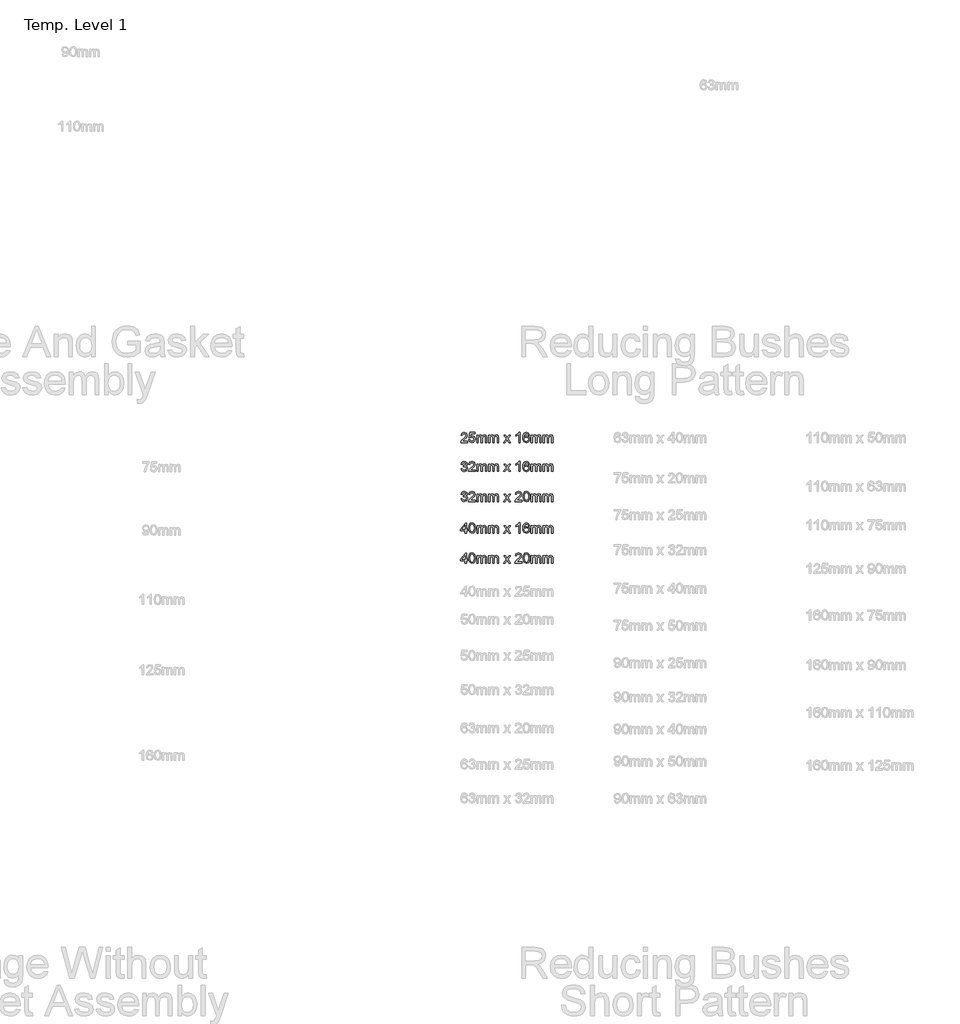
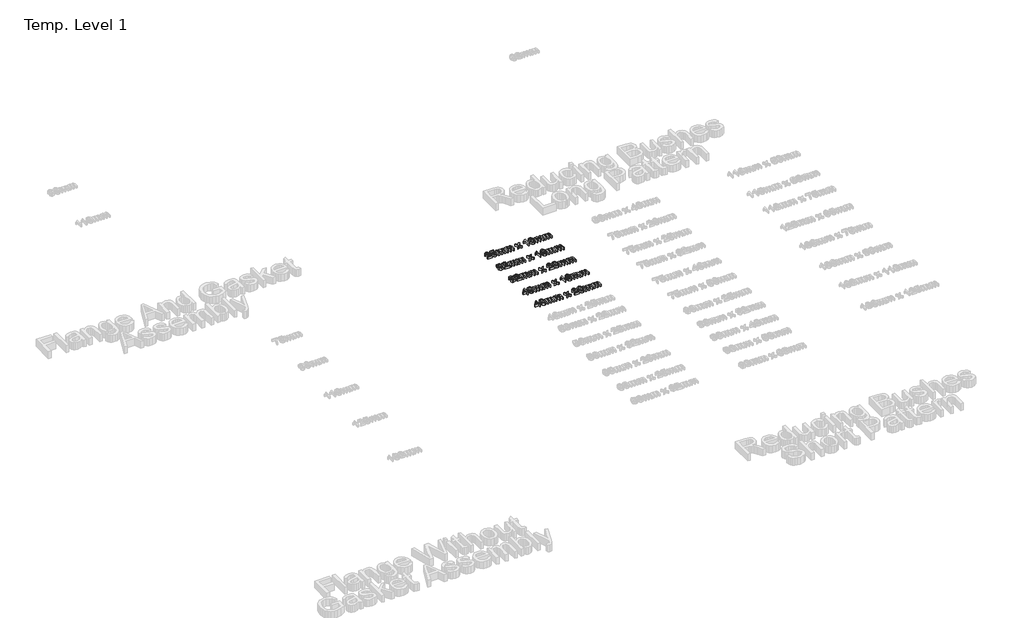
# One storey, part 37 of 62: 5 proxies.
"""IFC4 building model written with IfcOpenShell, lengths in millimetres."""

import ifcopenshell
import ifcopenshell.guid

model = None  # the IFC model being written
_history = None  # IfcOwnerHistory: only IFC2X3 demands one
_inside = {}  # id of a spatial element -> (the spatial element, [elements in it])
_under = {}  # id of a project, library or spatial element -> (it, [spatial elements below it])
_declared = {}  # id of a project -> (the project, [libraries it declares])
_typed = {}  # id of a type object -> (the type object, [elements of that type])
_made_of = {}  # id of a material, layer set ... -> (it, [elements and type objects made of it])


def new_model(schema):
    """Start an empty IFC model of exactly this schema.

    Asked for "IFC4X3", IfcOpenShell would pick the latest addendum, in which some entities
    have other attributes; the version numbers below select the first issue.
    IFC2X3 requires an IfcOwnerHistory on every rooted entity: one is made here for all.
    """
    global model, _history
    if schema == "IFC4X3":
        model = ifcopenshell.file(schema_version=(4, 3, 0, 0))
    else:
        model = ifcopenshell.file(schema=schema)
    _inside.clear()
    _under.clear()
    _declared.clear()
    _typed.clear()
    _made_of.clear()
    _history = None
    if model.schema == "IFC2X3":
        org = make("IfcOrganization", Name="unknown")
        user = make(
            "IfcPersonAndOrganization",
            ThePerson=make("IfcPerson", FamilyName="unknown"),
            TheOrganization=org,
        )
        app = make(
            "IfcApplication",
            ApplicationDeveloper=org,
            Version="unknown",
            ApplicationFullName="unknown",
            ApplicationIdentifier="unknown",
        )
        _history = make(
            "IfcOwnerHistory",
            OwningUser=user,
            OwningApplication=app,
            ChangeAction="ADDED",
            CreationDate=0,
        )
    return model


def make(cls, **values):
    """One entity of the class cls with the attributes given. An attribute that is None is left unset."""
    return model.create_entity(
        cls, **{name: value for name, value in values.items() if value is not None}
    )


def rooted(cls, **values):
    """An entity with a GlobalId (a new one), such as an element, a storey or a relation."""
    return make(cls, GlobalId=ifcopenshell.guid.new(), OwnerHistory=_history, **values)


def si_unit(unit_type, name, prefix=None):
    """IfcSIUnit, for example si_unit("LENGTHUNIT", "METRE", prefix="MILLI")."""
    return make("IfcSIUnit", UnitType=unit_type, Prefix=prefix, Name=name)


def assignment(units):
    """IfcUnitAssignment: the units of a project."""
    return None if units is None else make("IfcUnitAssignment", Units=units)


def point(xyz):
    """IfcCartesianPoint."""
    return None if xyz is None else make("IfcCartesianPoint", Coordinates=xyz)


def direction(xyz):
    """IfcDirection."""
    return None if xyz is None else make("IfcDirection", DirectionRatios=xyz)


def frame(location, z_axis=None, x_axis=None):
    """IfcAxis2Placement3D, a coordinate frame: its origin and axes. An axis left out is left unset."""
    return make(
        "IfcAxis2Placement3D",
        Location=point(location),
        Axis=direction(z_axis),
        RefDirection=direction(x_axis),
    )


def origin():
    """The frame at (0, 0, 0) with its axes left unset."""
    return frame((0.0, 0.0, 0.0))


def origin_with_axes():
    """The frame at (0, 0, 0) with the z axis (0, 0, 1) and the x axis (1, 0, 0) written out."""
    return frame((0.0, 0.0, 0.0), z_axis=(0.0, 0.0, 1.0), x_axis=(1.0, 0.0, 0.0))


def place(relative_to, where):
    """IfcLocalPlacement: puts the frame where relative to a parent placement (None: the world)."""
    return make(
        "IfcLocalPlacement", PlacementRelTo=relative_to, RelativePlacement=where
    )


def context(
    kind, dimensions, precision=None, world=None, true_north=None, identifier=None
):
    """IfcGeometricRepresentationContext, for example the 3D "Model" context."""
    return make(
        "IfcGeometricRepresentationContext",
        ContextIdentifier=identifier,
        ContextType=kind,
        CoordinateSpaceDimension=dimensions,
        Precision=precision,
        WorldCoordinateSystem=world,
        TrueNorth=true_north,
    )


def project(units=None, contexts=None):
    """IfcProject with its units and contexts."""
    return rooted(
        "IfcProject",
        Name="project",
        RepresentationContexts=contexts,
        UnitsInContext=assignment(units),
    )


def spatial(cls, under=None, at=None, **own):
    """A site, building, storey or space (cls), placed at a placement, below another one or the project."""
    s = rooted(cls, ObjectPlacement=at, **own)
    if under is not None:
        _under.setdefault(under.id(), (under, []))[1].append(s)
    return s


def polyline(points):
    """IfcPolyline through the points."""
    return make("IfcPolyline", Points=[point(p) for p in points])


def outline(outer, holes=None, kind="AREA"):
    """IfcArbitraryClosedProfileDef: a profile drawn as a closed curve; with holes, ...WithVoids."""
    if holes is None:
        return make("IfcArbitraryClosedProfileDef", ProfileType=kind, OuterCurve=outer)
    return make(
        "IfcArbitraryProfileDefWithVoids",
        ProfileType=kind,
        OuterCurve=outer,
        InnerCurves=holes,
    )


def extrude(swept, where, along, depth):
    """IfcExtrudedAreaSolid: the profile swept, set in the frame where, extruded along a direction by depth."""
    return make(
        "IfcExtrudedAreaSolid",
        SweptArea=swept,
        Position=where,
        ExtrudedDirection=direction(along),
        Depth=depth,
    )


def shape(context_of_items, identifier, shape_type, items):
    """IfcShapeRepresentation: the items that make up one representation, for example the "Body"."""
    return make(
        "IfcShapeRepresentation",
        ContextOfItems=context_of_items,
        RepresentationIdentifier=identifier,
        RepresentationType=shape_type,
        Items=items,
    )


def made_of(thing, what):
    """Note that an element or type object is made of a material, layer set ...; save() writes the relation."""
    if what is not None:
        _made_of.setdefault(what.id(), (what, []))[1].append(thing)
    return thing


def element(
    cls,
    number,
    at=None,
    inside=None,
    cuts=None,
    type_object=None,
    material=None,
    context=None,
    identifier="Body",
    shape_type=None,
    held_by="IfcProductDefinitionShape",
    body=None,
    shapes=None,
    **own,
):
    """One element of the class cls, such as IfcWall. Its Tag is "e" and its number.

    at: its placement. inside: the storey or other place that contains it. cuts: it is an
    opening in that element (IfcRelVoidsElement). A single representation is given by context,
    identifier, shape_type and body (its items); several are given by shapes. held_by: the class
    of the entity that holds the representations. save() writes the other relations.
    """
    e = rooted(cls, Tag="e%d" % number, ObjectPlacement=at, **own)
    if body is not None:
        shapes = [shape(context, identifier, shape_type, body)]
    if shapes is not None:
        e.Representation = make(held_by, Representations=shapes)
    if inside is not None:
        _inside.setdefault(inside.id(), (inside, []))[1].append(e)
    if cuts is not None:
        rooted(
            "IfcRelVoidsElement", RelatingBuildingElement=cuts, RelatedOpeningElement=e
        )
    if type_object is not None:
        _typed.setdefault(type_object.id(), (type_object, []))[1].append(e)
    return made_of(e, material)


def aggregate(whole, parts):
    """IfcRelAggregates: a whole, such as a stair, and the parts it consists of."""
    return rooted("IfcRelAggregates", RelatingObject=whole, RelatedObjects=parts)


def save(model, path):
    """Write the relations noted so far, then the file.

    IfcRelAggregates (storeys below a building ...), IfcRelContainedInSpatialStructure (elements
    in a storey), IfcRelDefinesByType, IfcRelAssociatesMaterial and IfcRelDeclares: one each for
    every whole, place, type object, material and project.
    """
    for whole, parts in _under.values():
        aggregate(whole, parts)
    for where, things in _inside.values():
        rooted(
            "IfcRelContainedInSpatialStructure",
            RelatedElements=things,
            RelatingStructure=where,
        )
    for kind, things in _typed.values():
        rooted("IfcRelDefinesByType", RelatedObjects=things, RelatingType=kind)
    for what, things in _made_of.values():
        rooted("IfcRelAssociatesMaterial", RelatedObjects=things, RelatingMaterial=what)
    for by, libraries in _declared.values():
        rooted("IfcRelDeclares", RelatingContext=by, RelatedDefinitions=libraries)
    model.write(path)


model = new_model("IFC4")

# Units and contexts
model_context = context("Model", 3, world=origin())
ifc_project = project(units=[si_unit("LENGTHUNIT", "METRE", prefix="MILLI")], contexts=[model_context])

# Site, building, storey
site = spatial("IfcSite", under=ifc_project)
building = spatial("IfcBuilding", under=site)
storey = spatial("IfcBuildingStorey", under=building, Name="Temp. Level 1", Elevation=0.0)

# Proxies
placement = place(None, origin())
element("IfcBuildingElementProxy", 1, Name="50mm Arial", ObjectType="50mm Arial", at=placement, inside=storey, context=model_context, shape_type="SweptSolid", body=[
    extrude(outline(polyline([(23370.9178032, -4386.870358), (23370.9178032, -4393.0242041), (23338.6101109, -4393.0242041), (23339.2711685, -4388.7814157), (23343.0091493, -4382.2489637), (23350.7134762, -4375.1155503), (23361.3384762, -4364.8631464), (23363.9947262, -4357.8919926), (23361.4887166, -4352.2489637), (23354.9442455, -4349.947281), (23348.123332, -4352.1948772), (23345.5331878, -4358.4088195), (23339.3793416, -4357.6395887), (23344.0968897, -4347.339108), (23355.076457, -4343.7934349), (23366.092082, -4347.7357426), (23370.1485724, -4357.5193964), (23369.0548224, -4363.354733), (23365.4190051, -4369.3883868), (23356.6028993, -4377.8198772), (23349.5235724, -4383.7393483), (23346.7471301, -4386.870358), (23370.9178032, -4386.870358)])), origin_with_axes(), (0.0, 0.0, 1.0), 15.0),
    extrude(outline(polyline([(23377.0716493, -4379.947281), (23383.2254955, -4379.1780503), (23386.326457, -4385.5181945), (23392.7567455, -4387.6395887), (23400.4730916, -4384.6888676), (23403.2254955, -4376.8583387), (23400.6473705, -4369.5506464), (23392.8528993, -4366.870358), (23387.4502551, -4367.9400695), (23383.9947262, -4370.7165118), (23377.8408801, -4369.947281), (23383.2254955, -4344.5626657), (23407.0716493, -4344.5626657), (23407.0716493, -4350.7165118), (23388.201457, -4350.7165118), (23385.5692455, -4364.2742041), (23394.5716493, -4360.7165118), (23405.0944859, -4365.1275695), (23409.3793416, -4376.4737233), (23405.5211685, -4387.8919926), (23399.9803032, -4392.3180743), (23392.732707, -4393.7934349), (23381.873332, -4390.0013676), (23377.0716493, -4379.947281)])), origin_with_axes(), (0.0, 0.0, 1.0), 15.0),
    extrude(outline(polyline([(23416.3024185, -4393.0242041), (23416.3024185, -4356.870358), (23422.4562647, -4356.870358), (23422.4562647, -4362.8198772), (23426.6870339, -4357.9460791), (23432.7086685, -4356.1011272), (23438.8745339, -4357.9821368), (23442.263957, -4363.2525695), (23447.0656397, -4357.8889878), (23453.1293416, -4356.1011272), (23461.1762166, -4359.0758868), (23463.9947262, -4368.2405503), (23463.9947262, -4393.0242041), (23457.8408801, -4393.0242041), (23457.8408801, -4370.884781), (23457.2699666, -4365.7465599), (23455.2026589, -4363.2165118), (23451.6870339, -4362.2549733), (23445.6353512, -4364.7189157), (23443.2254955, -4372.6155503), (23443.2254955, -4393.0242041), (23437.0716493, -4393.0242041), (23437.0716493, -4370.1996849), (23435.6473705, -4364.2381464), (23430.9778993, -4362.2549733), (23426.4226109, -4363.5770887), (23423.3937647, -4367.447281), (23422.4562647, -4374.791031), (23422.4562647, -4393.0242041), (23416.3024185, -4393.0242041)])), origin_with_axes(), (0.0, 0.0, 1.0), 15.0),
    extrude(outline(polyline([(23473.2254955, -4393.0242041), (23473.2254955, -4356.870358), (23479.3793416, -4356.870358), (23479.3793416, -4362.8198772), (23483.6101109, -4357.9460791), (23489.6317455, -4356.1011272), (23495.7976109, -4357.9821368), (23499.1870339, -4363.2525695), (23503.9887166, -4357.8889878), (23510.0524185, -4356.1011272), (23518.0992935, -4359.0758868), (23520.9178032, -4368.2405503), (23520.9178032, -4393.0242041), (23514.763957, -4393.0242041), (23514.763957, -4370.884781), (23514.1930435, -4365.7465599), (23512.1257359, -4363.2165118), (23508.6101109, -4362.2549733), (23502.5584282, -4364.7189157), (23500.1485724, -4372.6155503), (23500.1485724, -4393.0242041), (23493.9947262, -4393.0242041), (23493.9947262, -4370.1996849), (23492.5704474, -4364.2381464), (23487.9009762, -4362.2549733), (23483.3456878, -4363.5770887), (23480.3168416, -4367.447281), (23479.3793416, -4374.791031), (23479.3793416, -4393.0242041), (23473.2254955, -4393.0242041)])), origin_with_axes(), (0.0, 0.0, 1.0), 15.0),
    extrude(outline(polyline([(23545.5331878, -4393.0242041), (23558.6822262, -4374.8511272), (23546.3024185, -4356.870358), (23553.7062647, -4356.870358), (23559.6798224, -4365.5242041), (23562.4682839, -4369.6107426), (23564.8841493, -4366.2693964), (23571.6870339, -4356.870358), (23579.0908801, -4356.870358), (23566.0860724, -4374.8511272), (23578.6101109, -4393.0242041), (23571.2062647, -4393.0242041), (23563.670207, -4382.0987233), (23562.2879955, -4380.103531), (23552.9370339, -4393.0242041), (23545.5331878, -4393.0242041)])), origin_with_axes(), (0.0, 0.0, 1.0), 15.0),
    extrude(outline(polyline([(23624.763957, -4393.0242041), (23618.6101109, -4393.0242041), (23618.6101109, -4354.6588195), (23612.7807839, -4358.8114637), (23606.3024185, -4361.9184349), (23606.3024185, -4356.1011272), (23615.3228512, -4350.3439157), (23620.7976109, -4343.7934349), (23624.763957, -4343.7934349), (23624.763957, -4393.0242041)])), origin_with_axes(), (0.0, 0.0, 1.0), 15.0),
    extrude(outline(polyline([(23670.9178032, -4356.870358), (23664.763957, -4357.6395887), (23662.4322262, -4352.5073772), (23656.2663609, -4349.947281), (23650.7134762, -4351.4376657), (23646.5127551, -4357.0326176), (23644.763957, -4368.0001657), (23650.1906397, -4363.0903099), (23656.9153993, -4361.4857426), (23667.3721301, -4365.8727618), (23671.6870339, -4377.2068964), (23669.6557839, -4385.698483), (23664.0668416, -4391.7080983), (23656.0019378, -4393.7934349), (23643.4598705, -4388.2645887), (23639.8225508, -4380.9448772), (23638.6101109, -4370.0434349), (23639.9562647, -4357.7868243), (23643.9947262, -4349.4064157), (23649.5085484, -4345.1966801), (23656.6509762, -4343.7934349), (23666.3745339, -4347.2669926), (23670.9178032, -4356.870358)]), holes=[polyline([(23644.763957, -4377.1107426), (23646.1882359, -4382.4412714), (23649.9742935, -4386.3114637), (23655.5211685, -4387.6395887), (23662.7747743, -4384.8871849), (23665.5331878, -4377.4112233), (23662.810832, -4370.2537714), (23655.2687647, -4367.6395887), (23647.8228512, -4370.2537714), (23644.763957, -4377.1107426)])]), origin_with_axes(), (0.0, 0.0, 1.0), 15.0),
    extrude(outline(polyline([(23678.6101109, -4393.0242041), (23678.6101109, -4356.870358), (23684.763957, -4356.870358), (23684.763957, -4362.8198772), (23688.9947262, -4357.9460791), (23695.0163609, -4356.1011272), (23701.1822262, -4357.9821368), (23704.5716493, -4363.2525695), (23709.373332, -4357.8889878), (23715.4370339, -4356.1011272), (23723.4839089, -4359.0758868), (23726.3024185, -4368.2405503), (23726.3024185, -4393.0242041), (23720.1485724, -4393.0242041), (23720.1485724, -4370.884781), (23719.5776589, -4365.7465599), (23717.5103512, -4363.2165118), (23713.9947262, -4362.2549733), (23707.9430435, -4364.7189157), (23705.5331878, -4372.6155503), (23705.5331878, -4393.0242041), (23699.3793416, -4393.0242041), (23699.3793416, -4370.1996849), (23697.9550628, -4364.2381464), (23693.2855916, -4362.2549733), (23688.7303032, -4363.5770887), (23685.701457, -4367.447281), (23684.763957, -4374.791031), (23684.763957, -4393.0242041), (23678.6101109, -4393.0242041)])), origin_with_axes(), (0.0, 0.0, 1.0), 15.0),
    extrude(outline(polyline([(23735.5331878, -4393.0242041), (23735.5331878, -4356.870358), (23741.6870339, -4356.870358), (23741.6870339, -4362.8198772), (23745.9178032, -4357.9460791), (23751.9394378, -4356.1011272), (23758.1053032, -4357.9821368), (23761.4947262, -4363.2525695), (23766.2964089, -4357.8889878), (23772.3601109, -4356.1011272), (23780.4069859, -4359.0758868), (23783.2254955, -4368.2405503), (23783.2254955, -4393.0242041), (23777.0716493, -4393.0242041), (23777.0716493, -4370.884781), (23776.5007359, -4365.7465599), (23774.4334282, -4363.2165118), (23770.9178032, -4362.2549733), (23764.8661205, -4364.7189157), (23762.4562647, -4372.6155503), (23762.4562647, -4393.0242041), (23756.3024185, -4393.0242041), (23756.3024185, -4370.1996849), (23754.8781397, -4364.2381464), (23750.2086685, -4362.2549733), (23745.6533801, -4363.5770887), (23742.6245339, -4367.447281), (23741.6870339, -4374.791031), (23741.6870339, -4393.0242041), (23735.5331878, -4393.0242041)])), origin_with_axes(), (0.0, 0.0, 1.0), 15.0),
])
element("IfcBuildingElementProxy", 2, Name="50mm Arial", ObjectType="50mm Arial", at=placement, inside=storey, context=model_context, shape_type="SweptSolid", body=[
    extrude(outline(polyline([(23339.3793416, -4519.947281), (23345.5331878, -4519.1780503), (23348.9286205, -4525.6564157), (23355.2807839, -4527.6395887), (23362.7567455, -4524.9112233), (23365.5331878, -4518.1564157), (23362.7807839, -4511.792233), (23355.7855916, -4509.2742041), (23351.4706878, -4509.947281), (23352.1557839, -4503.7934349), (23360.1245339, -4502.0987233), (23363.2254955, -4496.666031), (23360.9778993, -4491.8523291), (23355.1846301, -4489.947281), (23349.3192455, -4491.870358), (23346.3024185, -4497.6395887), (23340.1485724, -4496.870358), (23345.1846301, -4487.2189157), (23354.9682839, -4483.7934349), (23362.3901589, -4485.4821368), (23367.5824666, -4490.0975214), (23369.3793416, -4496.3054541), (23367.6726109, -4501.978531), (23362.6245339, -4506.0530503), (23369.3312647, -4510.259781), (23371.6870339, -4518.2645887), (23366.9754955, -4529.2742041), (23355.0644378, -4533.7934349), (23344.2711685, -4529.9352618), (23339.3793416, -4519.947281)])), origin_with_axes(), (0.0, 0.0, 1.0), 15.0),
    extrude(outline(polyline([(23408.6101109, -4526.870358), (23408.6101109, -4533.0242041), (23376.3024185, -4533.0242041), (23376.9634762, -4528.7814157), (23380.701457, -4522.2489637), (23388.4057839, -4515.1155503), (23399.0307839, -4504.8631464), (23401.6870339, -4497.8919926), (23399.1810243, -4492.2489637), (23392.6365532, -4489.947281), (23385.8156397, -4492.1948772), (23383.2254955, -4498.4088195), (23377.0716493, -4497.6395887), (23381.7891974, -4487.339108), (23392.7687647, -4483.7934349), (23403.7843897, -4487.7357426), (23407.8408801, -4497.5193964), (23406.7471301, -4503.354733), (23403.1113128, -4509.3883868), (23394.295207, -4517.8198772), (23387.2158801, -4523.7393483), (23384.4394378, -4526.870358), (23408.6101109, -4526.870358)])), origin_with_axes(), (0.0, 0.0, 1.0), 15.0),
    extrude(outline(polyline([(23416.3024185, -4533.0242041), (23416.3024185, -4496.870358), (23422.4562647, -4496.870358), (23422.4562647, -4502.8198772), (23426.6870339, -4497.9460791), (23432.7086685, -4496.1011272), (23438.8745339, -4497.9821368), (23442.263957, -4503.2525695), (23447.0656397, -4497.8889878), (23453.1293416, -4496.1011272), (23461.1762166, -4499.0758868), (23463.9947262, -4508.2405503), (23463.9947262, -4533.0242041), (23457.8408801, -4533.0242041), (23457.8408801, -4510.884781), (23457.2699666, -4505.7465599), (23455.2026589, -4503.2165118), (23451.6870339, -4502.2549733), (23445.6353512, -4504.7189157), (23443.2254955, -4512.6155503), (23443.2254955, -4533.0242041), (23437.0716493, -4533.0242041), (23437.0716493, -4510.1996849), (23435.6473705, -4504.2381464), (23430.9778993, -4502.2549733), (23426.4226109, -4503.5770887), (23423.3937647, -4507.447281), (23422.4562647, -4514.791031), (23422.4562647, -4533.0242041), (23416.3024185, -4533.0242041)])), origin_with_axes(), (0.0, 0.0, 1.0), 15.0),
    extrude(outline(polyline([(23473.2254955, -4533.0242041), (23473.2254955, -4496.870358), (23479.3793416, -4496.870358), (23479.3793416, -4502.8198772), (23483.6101109, -4497.9460791), (23489.6317455, -4496.1011272), (23495.7976109, -4497.9821368), (23499.1870339, -4503.2525695), (23503.9887166, -4497.8889878), (23510.0524185, -4496.1011272), (23518.0992935, -4499.0758868), (23520.9178032, -4508.2405503), (23520.9178032, -4533.0242041), (23514.763957, -4533.0242041), (23514.763957, -4510.884781), (23514.1930435, -4505.7465599), (23512.1257359, -4503.2165118), (23508.6101109, -4502.2549733), (23502.5584282, -4504.7189157), (23500.1485724, -4512.6155503), (23500.1485724, -4533.0242041), (23493.9947262, -4533.0242041), (23493.9947262, -4510.1996849), (23492.5704474, -4504.2381464), (23487.9009762, -4502.2549733), (23483.3456878, -4503.5770887), (23480.3168416, -4507.447281), (23479.3793416, -4514.791031), (23479.3793416, -4533.0242041), (23473.2254955, -4533.0242041)])), origin_with_axes(), (0.0, 0.0, 1.0), 15.0),
    extrude(outline(polyline([(23545.5331878, -4533.0242041), (23558.6822262, -4514.8511272), (23546.3024185, -4496.870358), (23553.7062647, -4496.870358), (23559.6798224, -4505.5242041), (23562.4682839, -4509.6107426), (23564.8841493, -4506.2693964), (23571.6870339, -4496.870358), (23579.0908801, -4496.870358), (23566.0860724, -4514.8511272), (23578.6101109, -4533.0242041), (23571.2062647, -4533.0242041), (23563.670207, -4522.0987233), (23562.2879955, -4520.103531), (23552.9370339, -4533.0242041), (23545.5331878, -4533.0242041)])), origin_with_axes(), (0.0, 0.0, 1.0), 15.0),
    extrude(outline(polyline([(23624.763957, -4533.0242041), (23618.6101109, -4533.0242041), (23618.6101109, -4494.6588195), (23612.7807839, -4498.8114637), (23606.3024185, -4501.9184349), (23606.3024185, -4496.1011272), (23615.3228512, -4490.3439157), (23620.7976109, -4483.7934349), (23624.763957, -4483.7934349), (23624.763957, -4533.0242041)])), origin_with_axes(), (0.0, 0.0, 1.0), 15.0),
    extrude(outline(polyline([(23670.9178032, -4496.870358), (23664.763957, -4497.6395887), (23662.4322262, -4492.5073772), (23656.2663609, -4489.947281), (23650.7134762, -4491.4376657), (23646.5127551, -4497.0326176), (23644.763957, -4508.0001657), (23650.1906397, -4503.0903099), (23656.9153993, -4501.4857426), (23667.3721301, -4505.8727618), (23671.6870339, -4517.2068964), (23669.6557839, -4525.698483), (23664.0668416, -4531.7080983), (23656.0019378, -4533.7934349), (23643.4598705, -4528.2645887), (23639.8225508, -4520.9448772), (23638.6101109, -4510.0434349), (23639.9562647, -4497.7868243), (23643.9947262, -4489.4064157), (23649.5085484, -4485.1966801), (23656.6509762, -4483.7934349), (23666.3745339, -4487.2669926), (23670.9178032, -4496.870358)]), holes=[polyline([(23644.763957, -4517.1107426), (23646.1882359, -4522.4412714), (23649.9742935, -4526.3114637), (23655.5211685, -4527.6395887), (23662.7747743, -4524.8871849), (23665.5331878, -4517.4112233), (23662.810832, -4510.2537714), (23655.2687647, -4507.6395887), (23647.8228512, -4510.2537714), (23644.763957, -4517.1107426)])]), origin_with_axes(), (0.0, 0.0, 1.0), 15.0),
    extrude(outline(polyline([(23678.6101109, -4533.0242041), (23678.6101109, -4496.870358), (23684.763957, -4496.870358), (23684.763957, -4502.8198772), (23688.9947262, -4497.9460791), (23695.0163609, -4496.1011272), (23701.1822262, -4497.9821368), (23704.5716493, -4503.2525695), (23709.373332, -4497.8889878), (23715.4370339, -4496.1011272), (23723.4839089, -4499.0758868), (23726.3024185, -4508.2405503), (23726.3024185, -4533.0242041), (23720.1485724, -4533.0242041), (23720.1485724, -4510.884781), (23719.5776589, -4505.7465599), (23717.5103512, -4503.2165118), (23713.9947262, -4502.2549733), (23707.9430435, -4504.7189157), (23705.5331878, -4512.6155503), (23705.5331878, -4533.0242041), (23699.3793416, -4533.0242041), (23699.3793416, -4510.1996849), (23697.9550628, -4504.2381464), (23693.2855916, -4502.2549733), (23688.7303032, -4503.5770887), (23685.701457, -4507.447281), (23684.763957, -4514.791031), (23684.763957, -4533.0242041), (23678.6101109, -4533.0242041)])), origin_with_axes(), (0.0, 0.0, 1.0), 15.0),
    extrude(outline(polyline([(23735.5331878, -4533.0242041), (23735.5331878, -4496.870358), (23741.6870339, -4496.870358), (23741.6870339, -4502.8198772), (23745.9178032, -4497.9460791), (23751.9394378, -4496.1011272), (23758.1053032, -4497.9821368), (23761.4947262, -4503.2525695), (23766.2964089, -4497.8889878), (23772.3601109, -4496.1011272), (23780.4069859, -4499.0758868), (23783.2254955, -4508.2405503), (23783.2254955, -4533.0242041), (23777.0716493, -4533.0242041), (23777.0716493, -4510.884781), (23776.5007359, -4505.7465599), (23774.4334282, -4503.2165118), (23770.9178032, -4502.2549733), (23764.8661205, -4504.7189157), (23762.4562647, -4512.6155503), (23762.4562647, -4533.0242041), (23756.3024185, -4533.0242041), (23756.3024185, -4510.1996849), (23754.8781397, -4504.2381464), (23750.2086685, -4502.2549733), (23745.6533801, -4503.5770887), (23742.6245339, -4507.447281), (23741.6870339, -4514.791031), (23741.6870339, -4533.0242041), (23735.5331878, -4533.0242041)])), origin_with_axes(), (0.0, 0.0, 1.0), 15.0),
])
element("IfcBuildingElementProxy", 3, Name="50mm Arial", ObjectType="50mm Arial", at=placement, inside=storey, context=model_context, shape_type="SweptSolid", body=[
    extrude(outline(polyline([(23339.3793416, -4664.947281), (23345.5331878, -4664.1780503), (23348.9286205, -4670.6564157), (23355.2807839, -4672.6395887), (23362.7567455, -4669.9112233), (23365.5331878, -4663.1564157), (23362.7807839, -4656.792233), (23355.7855916, -4654.2742041), (23351.4706878, -4654.947281), (23352.1557839, -4648.7934349), (23360.1245339, -4647.0987233), (23363.2254955, -4641.666031), (23360.9778993, -4636.8523291), (23355.1846301, -4634.947281), (23349.3192455, -4636.870358), (23346.3024185, -4642.6395887), (23340.1485724, -4641.870358), (23345.1846301, -4632.2189157), (23354.9682839, -4628.7934349), (23362.3901589, -4630.4821368), (23367.5824666, -4635.0975214), (23369.3793416, -4641.3054541), (23367.6726109, -4646.978531), (23362.6245339, -4651.0530503), (23369.3312647, -4655.259781), (23371.6870339, -4663.2645887), (23366.9754955, -4674.2742041), (23355.0644378, -4678.7934349), (23344.2711685, -4674.9352618), (23339.3793416, -4664.947281)])), origin_with_axes(), (0.0, 0.0, 1.0), 15.0),
    extrude(outline(polyline([(23408.6101109, -4671.870358), (23408.6101109, -4678.0242041), (23376.3024185, -4678.0242041), (23376.9634762, -4673.7814157), (23380.701457, -4667.2489637), (23388.4057839, -4660.1155503), (23399.0307839, -4649.8631464), (23401.6870339, -4642.8919926), (23399.1810243, -4637.2489637), (23392.6365532, -4634.947281), (23385.8156397, -4637.1948772), (23383.2254955, -4643.4088195), (23377.0716493, -4642.6395887), (23381.7891974, -4632.339108), (23392.7687647, -4628.7934349), (23403.7843897, -4632.7357426), (23407.8408801, -4642.5193964), (23406.7471301, -4648.354733), (23403.1113128, -4654.3883868), (23394.295207, -4662.8198772), (23387.2158801, -4668.7393483), (23384.4394378, -4671.870358), (23408.6101109, -4671.870358)])), origin_with_axes(), (0.0, 0.0, 1.0), 15.0),
    extrude(outline(polyline([(23416.3024185, -4678.0242041), (23416.3024185, -4641.870358), (23422.4562647, -4641.870358), (23422.4562647, -4647.8198772), (23426.6870339, -4642.9460791), (23432.7086685, -4641.1011272), (23438.8745339, -4642.9821368), (23442.263957, -4648.2525695), (23447.0656397, -4642.8889878), (23453.1293416, -4641.1011272), (23461.1762166, -4644.0758868), (23463.9947262, -4653.2405503), (23463.9947262, -4678.0242041), (23457.8408801, -4678.0242041), (23457.8408801, -4655.884781), (23457.2699666, -4650.7465599), (23455.2026589, -4648.2165118), (23451.6870339, -4647.2549733), (23445.6353512, -4649.7189157), (23443.2254955, -4657.6155503), (23443.2254955, -4678.0242041), (23437.0716493, -4678.0242041), (23437.0716493, -4655.1996849), (23435.6473705, -4649.2381464), (23430.9778993, -4647.2549733), (23426.4226109, -4648.5770887), (23423.3937647, -4652.447281), (23422.4562647, -4659.791031), (23422.4562647, -4678.0242041), (23416.3024185, -4678.0242041)])), origin_with_axes(), (0.0, 0.0, 1.0), 15.0),
    extrude(outline(polyline([(23473.2254955, -4678.0242041), (23473.2254955, -4641.870358), (23479.3793416, -4641.870358), (23479.3793416, -4647.8198772), (23483.6101109, -4642.9460791), (23489.6317455, -4641.1011272), (23495.7976109, -4642.9821368), (23499.1870339, -4648.2525695), (23503.9887166, -4642.8889878), (23510.0524185, -4641.1011272), (23518.0992935, -4644.0758868), (23520.9178032, -4653.2405503), (23520.9178032, -4678.0242041), (23514.763957, -4678.0242041), (23514.763957, -4655.884781), (23514.1930435, -4650.7465599), (23512.1257359, -4648.2165118), (23508.6101109, -4647.2549733), (23502.5584282, -4649.7189157), (23500.1485724, -4657.6155503), (23500.1485724, -4678.0242041), (23493.9947262, -4678.0242041), (23493.9947262, -4655.1996849), (23492.5704474, -4649.2381464), (23487.9009762, -4647.2549733), (23483.3456878, -4648.5770887), (23480.3168416, -4652.447281), (23479.3793416, -4659.791031), (23479.3793416, -4678.0242041), (23473.2254955, -4678.0242041)])), origin_with_axes(), (0.0, 0.0, 1.0), 15.0),
    extrude(outline(polyline([(23545.5331878, -4678.0242041), (23558.6822262, -4659.8511272), (23546.3024185, -4641.870358), (23553.7062647, -4641.870358), (23559.6798224, -4650.5242041), (23562.4682839, -4654.6107426), (23564.8841493, -4651.2693964), (23571.6870339, -4641.870358), (23579.0908801, -4641.870358), (23566.0860724, -4659.8511272), (23578.6101109, -4678.0242041), (23571.2062647, -4678.0242041), (23563.670207, -4667.0987233), (23562.2879955, -4665.103531), (23552.9370339, -4678.0242041), (23545.5331878, -4678.0242041)])), origin_with_axes(), (0.0, 0.0, 1.0), 15.0),
    extrude(outline(polyline([(23633.2254955, -4671.870358), (23633.2254955, -4678.0242041), (23600.9178032, -4678.0242041), (23601.5788609, -4673.7814157), (23605.3168416, -4667.2489637), (23613.0211685, -4660.1155503), (23623.6461685, -4649.8631464), (23626.3024185, -4642.8919926), (23623.7964089, -4637.2489637), (23617.2519378, -4634.947281), (23610.4310243, -4637.1948772), (23607.8408801, -4643.4088195), (23601.6870339, -4642.6395887), (23606.404582, -4632.339108), (23617.3841493, -4628.7934349), (23628.3997743, -4632.7357426), (23632.4562647, -4642.5193964), (23631.3625147, -4648.354733), (23627.7266974, -4654.3883868), (23618.9105916, -4662.8198772), (23611.8312647, -4668.7393483), (23609.0548224, -4671.870358), (23633.2254955, -4671.870358)])), origin_with_axes(), (0.0, 0.0, 1.0), 15.0),
    extrude(outline(polyline([(23639.3793416, -4653.8054541), (23641.1882359, -4639.6407907), (23646.560832, -4631.4737233), (23655.5331878, -4628.7934349), (23662.7206878, -4630.3799733), (23667.6846301, -4634.9532907), (23670.5692455, -4642.2369445), (23671.6870339, -4653.8054541), (23669.8961685, -4667.9100214), (23664.5416012, -4676.0951176), (23655.5331878, -4678.7934349), (23644.2831878, -4674.1059349), (23640.6053032, -4665.7796128), (23639.3793416, -4653.8054541)]), holes=[polyline([(23645.5331878, -4653.7934349), (23648.4178032, -4669.0758868), (23655.5331878, -4672.6395887), (23662.6485724, -4669.0638676), (23665.5331878, -4653.7934349), (23662.7447262, -4638.6852618), (23655.4610724, -4634.947281), (23648.513957, -4638.2405503), (23645.5331878, -4653.7934349)])]), origin_with_axes(), (0.0, 0.0, 1.0), 15.0),
    extrude(outline(polyline([(23678.6101109, -4678.0242041), (23678.6101109, -4641.870358), (23684.763957, -4641.870358), (23684.763957, -4647.8198772), (23688.9947262, -4642.9460791), (23695.0163609, -4641.1011272), (23701.1822262, -4642.9821368), (23704.5716493, -4648.2525695), (23709.373332, -4642.8889878), (23715.4370339, -4641.1011272), (23723.4839089, -4644.0758868), (23726.3024185, -4653.2405503), (23726.3024185, -4678.0242041), (23720.1485724, -4678.0242041), (23720.1485724, -4655.884781), (23719.5776589, -4650.7465599), (23717.5103512, -4648.2165118), (23713.9947262, -4647.2549733), (23707.9430435, -4649.7189157), (23705.5331878, -4657.6155503), (23705.5331878, -4678.0242041), (23699.3793416, -4678.0242041), (23699.3793416, -4655.1996849), (23697.9550628, -4649.2381464), (23693.2855916, -4647.2549733), (23688.7303032, -4648.5770887), (23685.701457, -4652.447281), (23684.763957, -4659.791031), (23684.763957, -4678.0242041), (23678.6101109, -4678.0242041)])), origin_with_axes(), (0.0, 0.0, 1.0), 15.0),
    extrude(outline(polyline([(23735.5331878, -4678.0242041), (23735.5331878, -4641.870358), (23741.6870339, -4641.870358), (23741.6870339, -4647.8198772), (23745.9178032, -4642.9460791), (23751.9394378, -4641.1011272), (23758.1053032, -4642.9821368), (23761.4947262, -4648.2525695), (23766.2964089, -4642.8889878), (23772.3601109, -4641.1011272), (23780.4069859, -4644.0758868), (23783.2254955, -4653.2405503), (23783.2254955, -4678.0242041), (23777.0716493, -4678.0242041), (23777.0716493, -4655.884781), (23776.5007359, -4650.7465599), (23774.4334282, -4648.2165118), (23770.9178032, -4647.2549733), (23764.8661205, -4649.7189157), (23762.4562647, -4657.6155503), (23762.4562647, -4678.0242041), (23756.3024185, -4678.0242041), (23756.3024185, -4655.1996849), (23754.8781397, -4649.2381464), (23750.2086685, -4647.2549733), (23745.6533801, -4648.5770887), (23742.6245339, -4652.447281), (23741.6870339, -4659.791031), (23741.6870339, -4678.0242041), (23735.5331878, -4678.0242041)])), origin_with_axes(), (0.0, 0.0, 1.0), 15.0),
])
element("IfcBuildingElementProxy", 4, Name="50mm Arial", ObjectType="50mm Arial", at=placement, inside=storey, context=model_context, shape_type="SweptSolid", body=[
    extrude(outline(polyline([(23359.3793416, -4830.5242041), (23359.3793416, -4818.9857426), (23337.0716493, -4818.9857426), (23337.0716493, -4812.8318964), (23360.9178032, -4782.0626657), (23365.5331878, -4782.0626657), (23365.5331878, -4812.8318964), (23371.6870339, -4812.8318964), (23371.6870339, -4818.9857426), (23365.5331878, -4818.9857426), (23365.5331878, -4830.5242041), (23359.3793416, -4830.5242041)]), holes=[polyline([(23359.3793416, -4812.8318964), (23359.3793416, -4793.8174733), (23344.6437647, -4812.8318964), (23359.3793416, -4812.8318964)])]), origin_with_axes(), (0.0, 0.0, 1.0), 15.0),
    extrude(outline(polyline([(23377.0716493, -4806.3054541), (23378.8805435, -4792.1407907), (23384.2531397, -4783.9737233), (23393.2254955, -4781.2934349), (23400.4129955, -4782.8799733), (23405.3769378, -4787.4532907), (23408.2615532, -4794.7369445), (23409.3793416, -4806.3054541), (23407.5884762, -4820.4100214), (23402.2339089, -4828.5951176), (23393.2254955, -4831.2934349), (23381.9754955, -4826.6059349), (23378.2976109, -4818.2796128), (23377.0716493, -4806.3054541)]), holes=[polyline([(23383.2254955, -4806.2934349), (23386.1101109, -4821.5758868), (23393.2254955, -4825.1395887), (23400.3408801, -4821.5638676), (23403.2254955, -4806.2934349), (23400.4370339, -4791.1852618), (23393.1533801, -4787.447281), (23386.2062647, -4790.7405503), (23383.2254955, -4806.2934349)])]), origin_with_axes(), (0.0, 0.0, 1.0), 15.0),
    extrude(outline(polyline([(23416.3024185, -4830.5242041), (23416.3024185, -4794.370358), (23422.4562647, -4794.370358), (23422.4562647, -4800.3198772), (23426.6870339, -4795.4460791), (23432.7086685, -4793.6011272), (23438.8745339, -4795.4821368), (23442.263957, -4800.7525695), (23447.0656397, -4795.3889878), (23453.1293416, -4793.6011272), (23461.1762166, -4796.5758868), (23463.9947262, -4805.7405503), (23463.9947262, -4830.5242041), (23457.8408801, -4830.5242041), (23457.8408801, -4808.384781), (23457.2699666, -4803.2465599), (23455.2026589, -4800.7165118), (23451.6870339, -4799.7549733), (23445.6353512, -4802.2189157), (23443.2254955, -4810.1155503), (23443.2254955, -4830.5242041), (23437.0716493, -4830.5242041), (23437.0716493, -4807.6996849), (23435.6473705, -4801.7381464), (23430.9778993, -4799.7549733), (23426.4226109, -4801.0770887), (23423.3937647, -4804.947281), (23422.4562647, -4812.291031), (23422.4562647, -4830.5242041), (23416.3024185, -4830.5242041)])), origin_with_axes(), (0.0, 0.0, 1.0), 15.0),
    extrude(outline(polyline([(23473.2254955, -4830.5242041), (23473.2254955, -4794.370358), (23479.3793416, -4794.370358), (23479.3793416, -4800.3198772), (23483.6101109, -4795.4460791), (23489.6317455, -4793.6011272), (23495.7976109, -4795.4821368), (23499.1870339, -4800.7525695), (23503.9887166, -4795.3889878), (23510.0524185, -4793.6011272), (23518.0992935, -4796.5758868), (23520.9178032, -4805.7405503), (23520.9178032, -4830.5242041), (23514.763957, -4830.5242041), (23514.763957, -4808.384781), (23514.1930435, -4803.2465599), (23512.1257359, -4800.7165118), (23508.6101109, -4799.7549733), (23502.5584282, -4802.2189157), (23500.1485724, -4810.1155503), (23500.1485724, -4830.5242041), (23493.9947262, -4830.5242041), (23493.9947262, -4807.6996849), (23492.5704474, -4801.7381464), (23487.9009762, -4799.7549733), (23483.3456878, -4801.0770887), (23480.3168416, -4804.947281), (23479.3793416, -4812.291031), (23479.3793416, -4830.5242041), (23473.2254955, -4830.5242041)])), origin_with_axes(), (0.0, 0.0, 1.0), 15.0),
    extrude(outline(polyline([(23545.5331878, -4830.5242041), (23558.6822262, -4812.3511272), (23546.3024185, -4794.370358), (23553.7062647, -4794.370358), (23559.6798224, -4803.0242041), (23562.4682839, -4807.1107426), (23564.8841493, -4803.7693964), (23571.6870339, -4794.370358), (23579.0908801, -4794.370358), (23566.0860724, -4812.3511272), (23578.6101109, -4830.5242041), (23571.2062647, -4830.5242041), (23563.670207, -4819.5987233), (23562.2879955, -4817.603531), (23552.9370339, -4830.5242041), (23545.5331878, -4830.5242041)])), origin_with_axes(), (0.0, 0.0, 1.0), 15.0),
    extrude(outline(polyline([(23624.763957, -4830.5242041), (23618.6101109, -4830.5242041), (23618.6101109, -4792.1588195), (23612.7807839, -4796.3114637), (23606.3024185, -4799.4184349), (23606.3024185, -4793.6011272), (23615.3228512, -4787.8439157), (23620.7976109, -4781.2934349), (23624.763957, -4781.2934349), (23624.763957, -4830.5242041)])), origin_with_axes(), (0.0, 0.0, 1.0), 15.0),
    extrude(outline(polyline([(23670.9178032, -4794.370358), (23664.763957, -4795.1395887), (23662.4322262, -4790.0073772), (23656.2663609, -4787.447281), (23650.7134762, -4788.9376657), (23646.5127551, -4794.5326176), (23644.763957, -4805.5001657), (23650.1906397, -4800.5903099), (23656.9153993, -4798.9857426), (23667.3721301, -4803.3727618), (23671.6870339, -4814.7068964), (23669.6557839, -4823.198483), (23664.0668416, -4829.2080983), (23656.0019378, -4831.2934349), (23643.4598705, -4825.7645887), (23639.8225508, -4818.4448772), (23638.6101109, -4807.5434349), (23639.9562647, -4795.2868243), (23643.9947262, -4786.9064157), (23649.5085484, -4782.6966801), (23656.6509762, -4781.2934349), (23666.3745339, -4784.7669926), (23670.9178032, -4794.370358)]), holes=[polyline([(23644.763957, -4814.6107426), (23646.1882359, -4819.9412714), (23649.9742935, -4823.8114637), (23655.5211685, -4825.1395887), (23662.7747743, -4822.3871849), (23665.5331878, -4814.9112233), (23662.810832, -4807.7537714), (23655.2687647, -4805.1395887), (23647.8228512, -4807.7537714), (23644.763957, -4814.6107426)])]), origin_with_axes(), (0.0, 0.0, 1.0), 15.0),
    extrude(outline(polyline([(23678.6101109, -4830.5242041), (23678.6101109, -4794.370358), (23684.763957, -4794.370358), (23684.763957, -4800.3198772), (23688.9947262, -4795.4460791), (23695.0163609, -4793.6011272), (23701.1822262, -4795.4821368), (23704.5716493, -4800.7525695), (23709.373332, -4795.3889878), (23715.4370339, -4793.6011272), (23723.4839089, -4796.5758868), (23726.3024185, -4805.7405503), (23726.3024185, -4830.5242041), (23720.1485724, -4830.5242041), (23720.1485724, -4808.384781), (23719.5776589, -4803.2465599), (23717.5103512, -4800.7165118), (23713.9947262, -4799.7549733), (23707.9430435, -4802.2189157), (23705.5331878, -4810.1155503), (23705.5331878, -4830.5242041), (23699.3793416, -4830.5242041), (23699.3793416, -4807.6996849), (23697.9550628, -4801.7381464), (23693.2855916, -4799.7549733), (23688.7303032, -4801.0770887), (23685.701457, -4804.947281), (23684.763957, -4812.291031), (23684.763957, -4830.5242041), (23678.6101109, -4830.5242041)])), origin_with_axes(), (0.0, 0.0, 1.0), 15.0),
    extrude(outline(polyline([(23735.5331878, -4830.5242041), (23735.5331878, -4794.370358), (23741.6870339, -4794.370358), (23741.6870339, -4800.3198772), (23745.9178032, -4795.4460791), (23751.9394378, -4793.6011272), (23758.1053032, -4795.4821368), (23761.4947262, -4800.7525695), (23766.2964089, -4795.3889878), (23772.3601109, -4793.6011272), (23780.4069859, -4796.5758868), (23783.2254955, -4805.7405503), (23783.2254955, -4830.5242041), (23777.0716493, -4830.5242041), (23777.0716493, -4808.384781), (23776.5007359, -4803.2465599), (23774.4334282, -4800.7165118), (23770.9178032, -4799.7549733), (23764.8661205, -4802.2189157), (23762.4562647, -4810.1155503), (23762.4562647, -4830.5242041), (23756.3024185, -4830.5242041), (23756.3024185, -4807.6996849), (23754.8781397, -4801.7381464), (23750.2086685, -4799.7549733), (23745.6533801, -4801.0770887), (23742.6245339, -4804.947281), (23741.6870339, -4812.291031), (23741.6870339, -4830.5242041), (23735.5331878, -4830.5242041)])), origin_with_axes(), (0.0, 0.0, 1.0), 15.0),
])
element("IfcBuildingElementProxy", 5, Name="50mm Arial", ObjectType="50mm Arial", at=placement, inside=storey, context=model_context, shape_type="SweptSolid", body=[
    extrude(outline(polyline([(23359.3793416, -4975.5242041), (23359.3793416, -4963.9857426), (23337.0716493, -4963.9857426), (23337.0716493, -4957.8318964), (23360.9178032, -4927.0626657), (23365.5331878, -4927.0626657), (23365.5331878, -4957.8318964), (23371.6870339, -4957.8318964), (23371.6870339, -4963.9857426), (23365.5331878, -4963.9857426), (23365.5331878, -4975.5242041), (23359.3793416, -4975.5242041)]), holes=[polyline([(23359.3793416, -4957.8318964), (23359.3793416, -4938.8174733), (23344.6437647, -4957.8318964), (23359.3793416, -4957.8318964)])]), origin_with_axes(), (0.0, 0.0, 1.0), 15.0),
    extrude(outline(polyline([(23377.0716493, -4951.3054541), (23378.8805435, -4937.1407907), (23384.2531397, -4928.9737233), (23393.2254955, -4926.2934349), (23400.4129955, -4927.8799733), (23405.3769378, -4932.4532907), (23408.2615532, -4939.7369445), (23409.3793416, -4951.3054541), (23407.5884762, -4965.4100214), (23402.2339089, -4973.5951176), (23393.2254955, -4976.2934349), (23381.9754955, -4971.6059349), (23378.2976109, -4963.2796128), (23377.0716493, -4951.3054541)]), holes=[polyline([(23383.2254955, -4951.2934349), (23386.1101109, -4966.5758868), (23393.2254955, -4970.1395887), (23400.3408801, -4966.5638676), (23403.2254955, -4951.2934349), (23400.4370339, -4936.1852618), (23393.1533801, -4932.447281), (23386.2062647, -4935.7405503), (23383.2254955, -4951.2934349)])]), origin_with_axes(), (0.0, 0.0, 1.0), 15.0),
    extrude(outline(polyline([(23416.3024185, -4975.5242041), (23416.3024185, -4939.370358), (23422.4562647, -4939.370358), (23422.4562647, -4945.3198772), (23426.6870339, -4940.4460791), (23432.7086685, -4938.6011272), (23438.8745339, -4940.4821368), (23442.263957, -4945.7525695), (23447.0656397, -4940.3889878), (23453.1293416, -4938.6011272), (23461.1762166, -4941.5758868), (23463.9947262, -4950.7405503), (23463.9947262, -4975.5242041), (23457.8408801, -4975.5242041), (23457.8408801, -4953.384781), (23457.2699666, -4948.2465599), (23455.2026589, -4945.7165118), (23451.6870339, -4944.7549733), (23445.6353512, -4947.2189157), (23443.2254955, -4955.1155503), (23443.2254955, -4975.5242041), (23437.0716493, -4975.5242041), (23437.0716493, -4952.6996849), (23435.6473705, -4946.7381464), (23430.9778993, -4944.7549733), (23426.4226109, -4946.0770887), (23423.3937647, -4949.947281), (23422.4562647, -4957.291031), (23422.4562647, -4975.5242041), (23416.3024185, -4975.5242041)])), origin_with_axes(), (0.0, 0.0, 1.0), 15.0),
    extrude(outline(polyline([(23473.2254955, -4975.5242041), (23473.2254955, -4939.370358), (23479.3793416, -4939.370358), (23479.3793416, -4945.3198772), (23483.6101109, -4940.4460791), (23489.6317455, -4938.6011272), (23495.7976109, -4940.4821368), (23499.1870339, -4945.7525695), (23503.9887166, -4940.3889878), (23510.0524185, -4938.6011272), (23518.0992935, -4941.5758868), (23520.9178032, -4950.7405503), (23520.9178032, -4975.5242041), (23514.763957, -4975.5242041), (23514.763957, -4953.384781), (23514.1930435, -4948.2465599), (23512.1257359, -4945.7165118), (23508.6101109, -4944.7549733), (23502.5584282, -4947.2189157), (23500.1485724, -4955.1155503), (23500.1485724, -4975.5242041), (23493.9947262, -4975.5242041), (23493.9947262, -4952.6996849), (23492.5704474, -4946.7381464), (23487.9009762, -4944.7549733), (23483.3456878, -4946.0770887), (23480.3168416, -4949.947281), (23479.3793416, -4957.291031), (23479.3793416, -4975.5242041), (23473.2254955, -4975.5242041)])), origin_with_axes(), (0.0, 0.0, 1.0), 15.0),
    extrude(outline(polyline([(23545.5331878, -4975.5242041), (23558.6822262, -4957.3511272), (23546.3024185, -4939.370358), (23553.7062647, -4939.370358), (23559.6798224, -4948.0242041), (23562.4682839, -4952.1107426), (23564.8841493, -4948.7693964), (23571.6870339, -4939.370358), (23579.0908801, -4939.370358), (23566.0860724, -4957.3511272), (23578.6101109, -4975.5242041), (23571.2062647, -4975.5242041), (23563.670207, -4964.5987233), (23562.2879955, -4962.603531), (23552.9370339, -4975.5242041), (23545.5331878, -4975.5242041)])), origin_with_axes(), (0.0, 0.0, 1.0), 15.0),
    extrude(outline(polyline([(23633.2254955, -4969.370358), (23633.2254955, -4975.5242041), (23600.9178032, -4975.5242041), (23601.5788609, -4971.2814157), (23605.3168416, -4964.7489637), (23613.0211685, -4957.6155503), (23623.6461685, -4947.3631464), (23626.3024185, -4940.3919926), (23623.7964089, -4934.7489637), (23617.2519378, -4932.447281), (23610.4310243, -4934.6948772), (23607.8408801, -4940.9088195), (23601.6870339, -4940.1395887), (23606.404582, -4929.839108), (23617.3841493, -4926.2934349), (23628.3997743, -4930.2357426), (23632.4562647, -4940.0193964), (23631.3625147, -4945.854733), (23627.7266974, -4951.8883868), (23618.9105916, -4960.3198772), (23611.8312647, -4966.2393483), (23609.0548224, -4969.370358), (23633.2254955, -4969.370358)])), origin_with_axes(), (0.0, 0.0, 1.0), 15.0),
    extrude(outline(polyline([(23639.3793416, -4951.3054541), (23641.1882359, -4937.1407907), (23646.560832, -4928.9737233), (23655.5331878, -4926.2934349), (23662.7206878, -4927.8799733), (23667.6846301, -4932.4532907), (23670.5692455, -4939.7369445), (23671.6870339, -4951.3054541), (23669.8961685, -4965.4100214), (23664.5416012, -4973.5951176), (23655.5331878, -4976.2934349), (23644.2831878, -4971.6059349), (23640.6053032, -4963.2796128), (23639.3793416, -4951.3054541)]), holes=[polyline([(23645.5331878, -4951.2934349), (23648.4178032, -4966.5758868), (23655.5331878, -4970.1395887), (23662.6485724, -4966.5638676), (23665.5331878, -4951.2934349), (23662.7447262, -4936.1852618), (23655.4610724, -4932.447281), (23648.513957, -4935.7405503), (23645.5331878, -4951.2934349)])]), origin_with_axes(), (0.0, 0.0, 1.0), 15.0),
    extrude(outline(polyline([(23678.6101109, -4975.5242041), (23678.6101109, -4939.370358), (23684.763957, -4939.370358), (23684.763957, -4945.3198772), (23688.9947262, -4940.4460791), (23695.0163609, -4938.6011272), (23701.1822262, -4940.4821368), (23704.5716493, -4945.7525695), (23709.373332, -4940.3889878), (23715.4370339, -4938.6011272), (23723.4839089, -4941.5758868), (23726.3024185, -4950.7405503), (23726.3024185, -4975.5242041), (23720.1485724, -4975.5242041), (23720.1485724, -4953.384781), (23719.5776589, -4948.2465599), (23717.5103512, -4945.7165118), (23713.9947262, -4944.7549733), (23707.9430435, -4947.2189157), (23705.5331878, -4955.1155503), (23705.5331878, -4975.5242041), (23699.3793416, -4975.5242041), (23699.3793416, -4952.6996849), (23697.9550628, -4946.7381464), (23693.2855916, -4944.7549733), (23688.7303032, -4946.0770887), (23685.701457, -4949.947281), (23684.763957, -4957.291031), (23684.763957, -4975.5242041), (23678.6101109, -4975.5242041)])), origin_with_axes(), (0.0, 0.0, 1.0), 15.0),
    extrude(outline(polyline([(23735.5331878, -4975.5242041), (23735.5331878, -4939.370358), (23741.6870339, -4939.370358), (23741.6870339, -4945.3198772), (23745.9178032, -4940.4460791), (23751.9394378, -4938.6011272), (23758.1053032, -4940.4821368), (23761.4947262, -4945.7525695), (23766.2964089, -4940.3889878), (23772.3601109, -4938.6011272), (23780.4069859, -4941.5758868), (23783.2254955, -4950.7405503), (23783.2254955, -4975.5242041), (23777.0716493, -4975.5242041), (23777.0716493, -4953.384781), (23776.5007359, -4948.2465599), (23774.4334282, -4945.7165118), (23770.9178032, -4944.7549733), (23764.8661205, -4947.2189157), (23762.4562647, -4955.1155503), (23762.4562647, -4975.5242041), (23756.3024185, -4975.5242041), (23756.3024185, -4952.6996849), (23754.8781397, -4946.7381464), (23750.2086685, -4944.7549733), (23745.6533801, -4946.0770887), (23742.6245339, -4949.947281), (23741.6870339, -4957.291031), (23741.6870339, -4975.5242041), (23735.5331878, -4975.5242041)])), origin_with_axes(), (0.0, 0.0, 1.0), 15.0),
])

save(model, "model.ifc")
